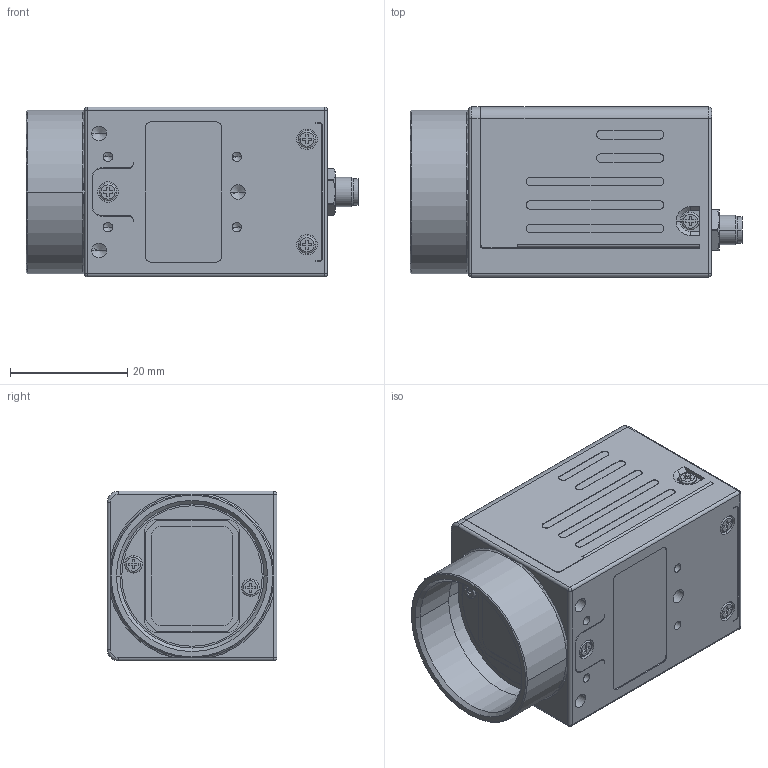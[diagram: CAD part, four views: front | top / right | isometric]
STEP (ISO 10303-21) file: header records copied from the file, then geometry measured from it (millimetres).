
FILE_DESCRIPTION((''),'2;1');
FILE_NAME('GO-2400M-PMCL_MOCK','2016-03-10T',('aso'),(''),'PRO/ENGINEER BY PARAMETRIC TECHNOLOGY CORPORATION, 2014200','PRO/ENGINEER BY PARAMETRIC TECHNOLOGY CORPORATION, 2014200','');
FILE_SCHEMA(('CONFIG_CONTROL_DESIGN'));
Products named in the file (1): GO-2400M-PMCL_MOCK
Bounding box: 56.7 x 29 x 29 mm (x, y, z)
Volume: 12453.8 mm3; surface area: 19236.9 mm2
Topology: 1 solids, 21 shells, 3784 faces, 10757 edges, 6937 vertices
Faces by surface type: plane 2505, cylinder 873, torus 190, cone 120, sphere 77, bspline 19
Entity records: 123005 total; most frequent: CARTESIAN_POINT 23413, ORIENTED_EDGE 21346, DIRECTION 20240, EDGE_CURVE 10673, VECTOR 7824, LINE 7824, VERTEX_POINT 6937, AXIS2_PLACEMENT_3D 6208
